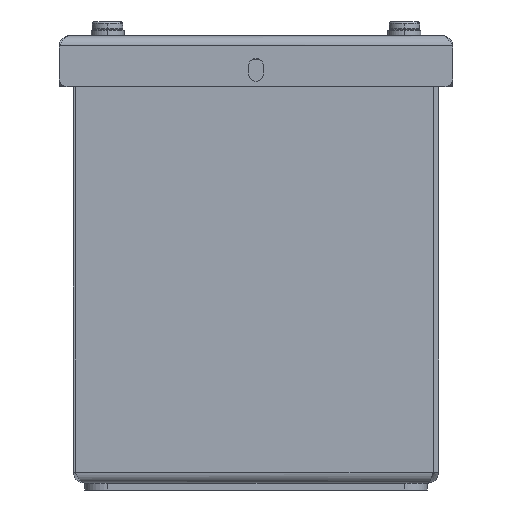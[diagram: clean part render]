
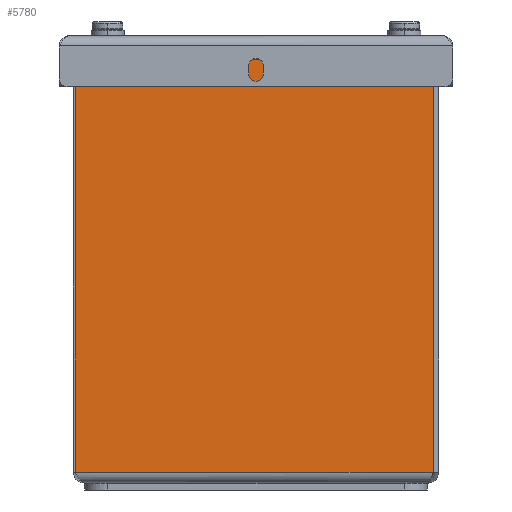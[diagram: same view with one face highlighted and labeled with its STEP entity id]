
A CAD part, left-side view. The second image highlights one B-rep face of the part: STEP entity #5780.
In plain terms, the highlighted planar face has unit normal (-1, 0, 0).
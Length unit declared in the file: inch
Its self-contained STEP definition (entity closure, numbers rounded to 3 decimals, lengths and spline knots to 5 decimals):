
#266=DIRECTION('',(0.,-1.,0.));
#267=VECTOR('',#266,3.918);
#268=CARTESIAN_POINT('',(0.,3.978,0.12));
#269=LINE('',#268,#267);
#1714=DIRECTION('',(0.,-1.,0.));
#1715=VECTOR('',#1714,3.22175);
#1716=CARTESIAN_POINT('',(0.,3.978,4.638));
#1717=LINE('',#1716,#1715);
#1806=DIRECTION('',(0.,0.,1.));
#1807=VECTOR('',#1806,4.518);
#1808=CARTESIAN_POINT('',(0.,3.978,0.12));
#1809=LINE('',#1808,#1807);
#1813=DIRECTION('',(0.,0.,1.));
#1814=VECTOR('',#1813,0.042);
#1815=CARTESIAN_POINT('',(0.,0.75625,4.638));
#1816=LINE('',#1815,#1814);
#1820=DIRECTION('',(0.,1.,0.));
#1821=VECTOR('',#1820,0.65125);
#1822=CARTESIAN_POINT('',(0.,0.105,4.68));
#1823=LINE('',#1822,#1821);
#1827=CARTESIAN_POINT('',(0.,0.105,4.635));
#1828=DIRECTION('',(-1.,0.,0.));
#1829=DIRECTION('',(0.,-1.,0.));
#1830=AXIS2_PLACEMENT_3D('',#1827,#1828,#1829);
#1877=DIRECTION('',(0.,0.,1.));
#1878=VECTOR('',#1877,4.515);
#1879=CARTESIAN_POINT('',(0.,0.06,0.12));
#1880=LINE('',#1879,#1878);
#3560=CARTESIAN_POINT('',(0.,0.75625,4.638));
#3561=CARTESIAN_POINT('',(0.,0.75625,4.68));
#3562=VERTEX_POINT('',#3560);
#3563=VERTEX_POINT('',#3561);
#3688=CARTESIAN_POINT('',(0.,3.978,0.12));
#3689=CARTESIAN_POINT('',(0.,3.978,4.638));
#3690=VERTEX_POINT('',#3688);
#3691=VERTEX_POINT('',#3689);
#3752=CARTESIAN_POINT('',(0.,0.06,4.635));
#3753=CARTESIAN_POINT('',(0.,0.105,4.68));
#3754=VERTEX_POINT('',#3752);
#3755=VERTEX_POINT('',#3753);
#3760=CARTESIAN_POINT('',(0.,0.06,0.12));
#3761=VERTEX_POINT('',#3760);
#5762=CARTESIAN_POINT('',(0.,4.,0.));
#5763=DIRECTION('',(-1.,0.,0.));
#5764=DIRECTION('',(0.,-1.,0.));
#5765=AXIS2_PLACEMENT_3D('',#5762,#5763,#5764);
#5766=PLANE('',#5765);
#5767=ORIENTED_EDGE('',*,*,#5315,.T.);
#5768=ORIENTED_EDGE('',*,*,#5752,.T.);
#5770=ORIENTED_EDGE('',*,*,#5769,.T.);
#5772=ORIENTED_EDGE('',*,*,#5771,.F.);
#5774=ORIENTED_EDGE('',*,*,#5773,.F.);
#5776=ORIENTED_EDGE('',*,*,#5775,.F.);
#5777=ORIENTED_EDGE('',*,*,#4158,.F.);
#5778=EDGE_LOOP('',(#5767,#5768,#5770,#5772,#5774,#5776,#5777));
#5779=FACE_OUTER_BOUND('',#5778,.F.);
#1831=CIRCLE('',#1830,0.045);
#4158=EDGE_CURVE('',#3690,#3761,#269,.T.);
#5315=EDGE_CURVE('',#3690,#3691,#1809,.T.);
#5752=EDGE_CURVE('',#3691,#3562,#1717,.T.);
#5769=EDGE_CURVE('',#3562,#3563,#1816,.T.);
#5771=EDGE_CURVE('',#3755,#3563,#1823,.T.);
#5773=EDGE_CURVE('',#3754,#3755,#1831,.T.);
#5775=EDGE_CURVE('',#3761,#3754,#1880,.T.);
#5780=ADVANCED_FACE('',(#5779),#5766,.T.);
